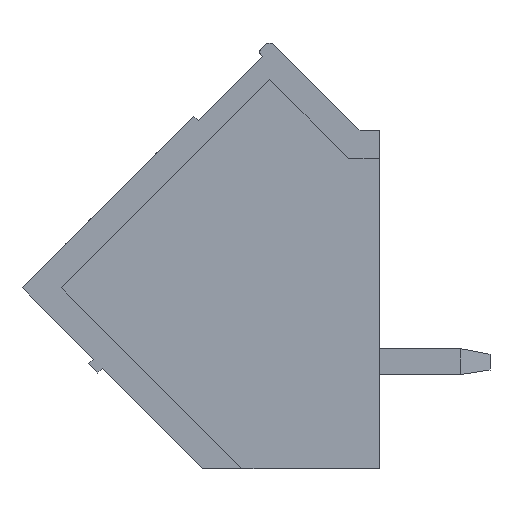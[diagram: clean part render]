
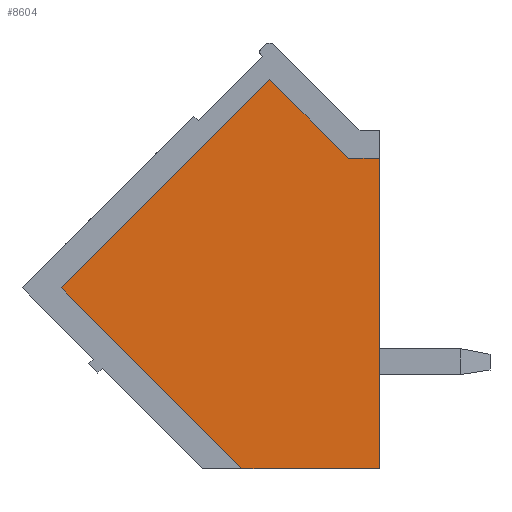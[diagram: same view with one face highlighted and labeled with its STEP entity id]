
A CAD part, left-side view. The second image highlights one B-rep face of the part: STEP entity #8604.
In plain terms, the highlighted planar face has unit normal (-1, 0, 0).
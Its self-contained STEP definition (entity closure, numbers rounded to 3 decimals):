
#83=DIRECTION('',(0.,1.,0.));
#84=VECTOR('',#83,0.952);
#85=CARTESIAN_POINT('',(0.3,5.2,-3.633));
#86=LINE('',#85,#84);
#99=DIRECTION('',(0.,0.,1.));
#100=VECTOR('',#99,9.55);
#101=CARTESIAN_POINT('',(0.3,5.2,-13.183));
#102=LINE('',#101,#100);
#442=DIRECTION('',(0.,-1.,0.));
#443=VECTOR('',#442,4.232);
#444=CARTESIAN_POINT('',(0.3,9.432,-13.183));
#445=LINE('',#444,#443);
#1764=DIRECTION('',(0.,0.707,0.707));
#1765=VECTOR('',#1764,7.871);
#1766=CARTESIAN_POINT('',(0.3,9.432,-13.183));
#1767=LINE('',#1766,#1765);
#1768=DIRECTION('',(0.,-0.707,0.707));
#1769=VECTOR('',#1768,9.072);
#1770=CARTESIAN_POINT('',(0.3,14.998,-7.617));
#1771=LINE('',#1770,#1769);
#1772=DIRECTION('',(0.,-0.707,-0.707));
#1773=VECTOR('',#1772,3.438);
#1774=CARTESIAN_POINT('',(0.3,8.583,-1.202));
#1775=LINE('',#1774,#1773);
#5144=CARTESIAN_POINT('',(0.3,14.998,-7.617));
#5145=VERTEX_POINT('',#5144);
#5146=CARTESIAN_POINT('',(0.3,9.432,-13.183));
#5147=VERTEX_POINT('',#5146);
#5148=CARTESIAN_POINT('',(0.3,8.583,-1.202));
#5149=VERTEX_POINT('',#5148);
#5150=CARTESIAN_POINT('',(0.3,6.152,-3.633));
#5151=VERTEX_POINT('',#5150);
#5152=CARTESIAN_POINT('',(0.3,5.2,-3.633));
#5153=VERTEX_POINT('',#5152);
#5158=CARTESIAN_POINT('',(0.3,5.2,-13.183));
#5159=VERTEX_POINT('',#5158);
#8591=CARTESIAN_POINT('',(0.3,5.2,-13.183));
#8592=DIRECTION('',(1.,0.,0.));
#8593=DIRECTION('',(0.,-1.,0.));
#8594=AXIS2_PLACEMENT_3D('',#8591,#8592,#8593);
#8595=PLANE('',#8594);
#8596=ORIENTED_EDGE('',*,*,#6231,.F.);
#8597=ORIENTED_EDGE('',*,*,#6709,.F.);
#8598=ORIENTED_EDGE('',*,*,#6173,.T.);
#8599=ORIENTED_EDGE('',*,*,#6188,.T.);
#8600=ORIENTED_EDGE('',*,*,#6202,.T.);
#8601=ORIENTED_EDGE('',*,*,#6216,.F.);
#8602=EDGE_LOOP('',(#8596,#8597,#8598,#8599,#8600,#8601));
#8603=FACE_OUTER_BOUND('',#8602,.F.);
#8604=ADVANCED_FACE('',(#8603),#8595,.F.);
#6173=EDGE_CURVE('',#5147,#5145,#1767,.T.);
#6188=EDGE_CURVE('',#5145,#5149,#1771,.T.);
#6202=EDGE_CURVE('',#5149,#5151,#1775,.T.);
#6216=EDGE_CURVE('',#5153,#5151,#86,.T.);
#6231=EDGE_CURVE('',#5159,#5153,#102,.T.);
#6709=EDGE_CURVE('',#5147,#5159,#445,.T.);
